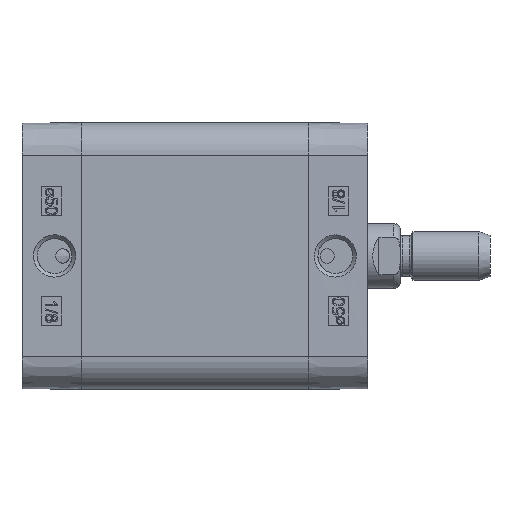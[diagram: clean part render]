
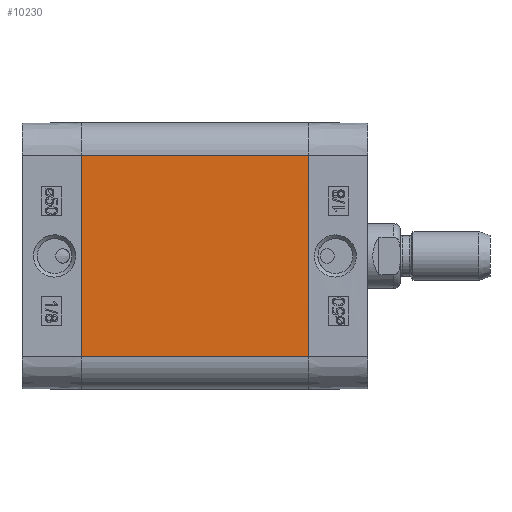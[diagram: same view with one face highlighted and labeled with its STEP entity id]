
A CAD part, left-side view. The second image highlights one B-rep face of the part: STEP entity #10230.
In plain terms, the highlighted planar face has unit normal (-1, 0, 0).
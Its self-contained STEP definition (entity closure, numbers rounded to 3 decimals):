
#5232=CARTESIAN_POINT('',(-32.75,-56.0,24.75));
#5233=VERTEX_POINT('',#5232);
#5240=CARTESIAN_POINT('',(-32.75,-56.0,-24.75));
#5241=VERTEX_POINT('',#5240);
#5242=CARTESIAN_POINT('',(-32.75,-56.0,-24.75));
#5243=DIRECTION('',(0.0,0.0,1.0));
#5244=VECTOR('',#5243,49.5);
#5245=LINE('',#5242,#5244);
#5246=EDGE_CURVE('',#5241,#5233,#5245,.T.);
#10188=CARTESIAN_POINT('',(-32.75,0.0,-24.75));
#10189=VERTEX_POINT('',#10188);
#10190=CARTESIAN_POINT('',(-32.75,0.0,-24.75));
#10191=DIRECTION('',(0.0,-1.0,0.0));
#10192=VECTOR('',#10191,56.0);
#10193=LINE('',#10190,#10192);
#10194=EDGE_CURVE('',#10189,#5241,#10193,.T.);
#10207=CARTESIAN_POINT('',(-32.75,0.0,-24.75));
#10208=DIRECTION('',(-1.0,0.0,0.0));
#10209=DIRECTION('',(0.0,0.0,1.0));
#10210=AXIS2_PLACEMENT_3D('',#10207,#10208,#10209);
#10211=PLANE('',#10210);
#10212=ORIENTED_EDGE('',*,*,#5246,.T.);
#10213=CARTESIAN_POINT('',(-32.75,0.0,24.75));
#10214=VERTEX_POINT('',#10213);
#10215=CARTESIAN_POINT('',(-32.75,0.0,24.75));
#10216=DIRECTION('',(0.0,-1.0,0.0));
#10217=VECTOR('',#10216,56.0);
#10218=LINE('',#10215,#10217);
#10219=EDGE_CURVE('',#10214,#5233,#10218,.T.);
#10220=ORIENTED_EDGE('',*,*,#10219,.F.);
#10221=CARTESIAN_POINT('',(-32.75,0.0,-24.75));
#10222=DIRECTION('',(0.0,0.0,1.0));
#10223=VECTOR('',#10222,49.5);
#10224=LINE('',#10221,#10223);
#10225=EDGE_CURVE('',#10189,#10214,#10224,.T.);
#10226=ORIENTED_EDGE('',*,*,#10225,.F.);
#10227=ORIENTED_EDGE('',*,*,#10194,.T.);
#10228=EDGE_LOOP('',(#10212,#10220,#10226,#10227));
#10229=FACE_OUTER_BOUND('',#10228,.T.);
#10230=ADVANCED_FACE('',(#10229),#10211,.T.);
